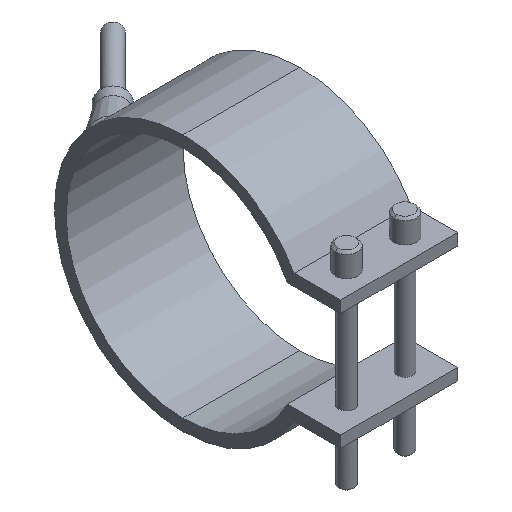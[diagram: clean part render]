
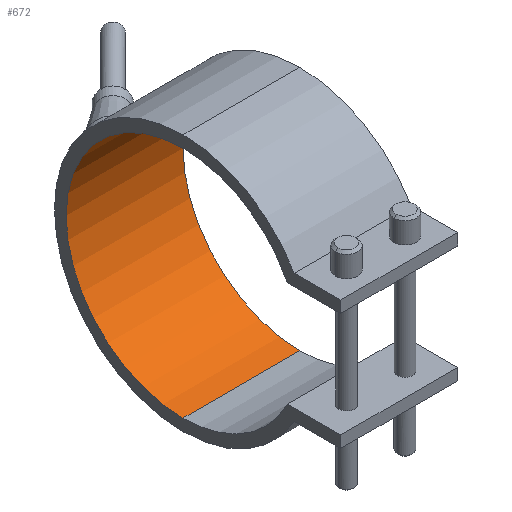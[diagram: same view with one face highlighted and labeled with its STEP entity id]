
A CAD part, isometric view. The second image highlights one B-rep face of the part: STEP entity #672.
In plain terms, the highlighted cylindrical face has radius 40 mm (diameter 80 mm), a partial arc.
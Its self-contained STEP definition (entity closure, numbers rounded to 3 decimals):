
#354=CARTESIAN_POINT('Vertex',(20.,0.,40.)) ;
#359=CARTESIAN_POINT('Axis2P3D Location',(20.,0.,0.)) ;
#363=CARTESIAN_POINT('Vertex',(20.,0.,-40.)) ;
#470=CARTESIAN_POINT('Vertex',(-20.,0.,-40.)) ;
#473=CARTESIAN_POINT('Axis2P3D Location',(-20.,0.,0.)) ;
#477=CARTESIAN_POINT('Vertex',(-20.,0.,40.)) ;
#644=CARTESIAN_POINT('Line Origine',(20.,0.,40.)) ;
#656=CARTESIAN_POINT('Axis2P3D Location',(20.,0.,0.)) ;
#661=CARTESIAN_POINT('Line Origine',(20.,0.,-40.)) ;
#360=DIRECTION('Axis2P3D Direction',(1.,0.,0.)) ;
#474=DIRECTION('Axis2P3D Direction',(1.,0.,0.)) ;
#645=DIRECTION('Vector Direction',(1.,0.,0.)) ;
#657=DIRECTION('Axis2P3D Direction',(1.,0.,-0.)) ;
#658=DIRECTION('Axis2P3D XDirection',(0.,0.,-1.)) ;
#662=DIRECTION('Vector Direction',(1.,0.,0.)) ;
#361=AXIS2_PLACEMENT_3D('Circle Axis2P3D',#359,#360,$) ;
#475=AXIS2_PLACEMENT_3D('Circle Axis2P3D',#473,#474,$) ;
#659=AXIS2_PLACEMENT_3D('Cylinder Axis2P3D',#656,#657,#658) ;
#667=ORIENTED_EDGE('',*,*,#365,.T.) ;
#668=ORIENTED_EDGE('',*,*,#648,.T.) ;
#669=ORIENTED_EDGE('',*,*,#479,.F.) ;
#670=ORIENTED_EDGE('',*,*,#665,.T.) ;
#646=VECTOR('Line Direction',#645,1.) ;
#663=VECTOR('Line Direction',#662,1.) ;
#672=ADVANCED_FACE('29080040',(#671),#660,.F.) ;
#362=CIRCLE('generated circle',#361,40.) ;
#476=CIRCLE('generated circle',#475,40.) ;
#660=CYLINDRICAL_SURFACE('generated cylinder',#659,40.) ;
#365=EDGE_CURVE('',#364,#355,#362,.T.) ;
#479=EDGE_CURVE('',#471,#478,#476,.T.) ;
#648=EDGE_CURVE('',#355,#478,#647,.F.) ;
#665=EDGE_CURVE('',#471,#364,#664,.T.) ;
#666=EDGE_LOOP('',(#667,#668,#669,#670)) ;
#671=FACE_OUTER_BOUND('',#666,.T.) ;
#647=LINE('Line',#644,#646) ;
#664=LINE('Line',#661,#663) ;
#355=VERTEX_POINT('',#354) ;
#364=VERTEX_POINT('',#363) ;
#471=VERTEX_POINT('',#470) ;
#478=VERTEX_POINT('',#477) ;
